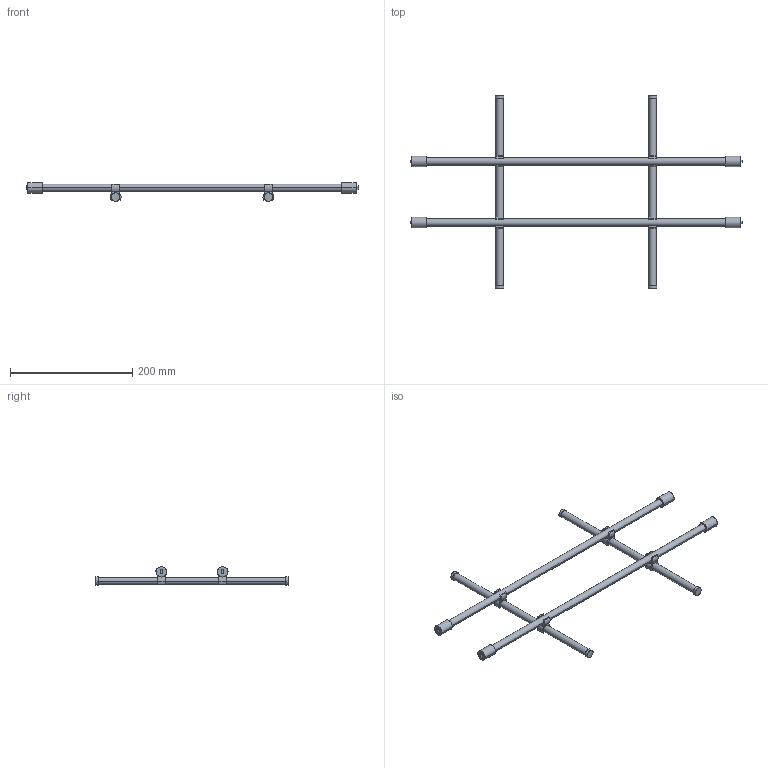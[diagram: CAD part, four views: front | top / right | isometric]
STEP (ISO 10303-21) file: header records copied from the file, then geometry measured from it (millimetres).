
FILE_DESCRIPTION (( 'STEP AP214' ), '1' );
FILE_NAME ('Magic-Classic_NL-350-KAB 600.step', '2010-09-16T12:49:14', ( 'grass' ), ( '' ), 'SwSTEP 2.0', 'SolidWorks 2010', '' );
FILE_SCHEMA (( 'AUTOMOTIVE_DESIGN' ));
Length unit declared in the file: millimetre
Products named in the file (1): Magic-Classic_NL-350-KAB 600
Bounding box: 543 x 315 x 30.45 mm (x, y, z)
Volume: 213272.7 mm3; surface area: 70773.5 mm2
Topology: 1 solids, 1 shells, 140 faces, 384 edges, 256 vertices
Faces by surface type: plane 76, cylinder 64
Entity records: 4546 total; most frequent: DIRECTION 826, CARTESIAN_POINT 781, ORIENTED_EDGE 768, EDGE_CURVE 384, AXIS2_PLACEMENT_3D 301, VERTEX_POINT 256, LINE 224, VECTOR 224
